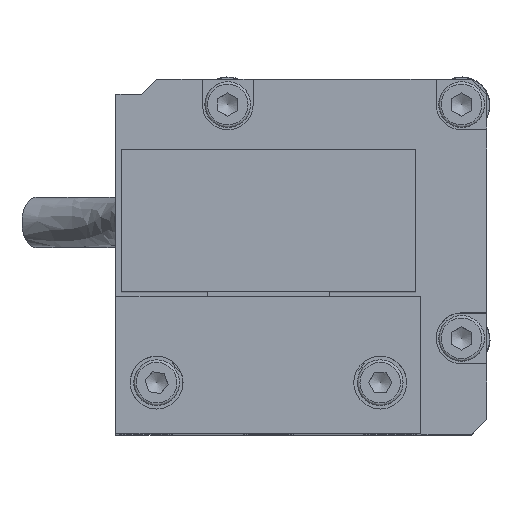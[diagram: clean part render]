
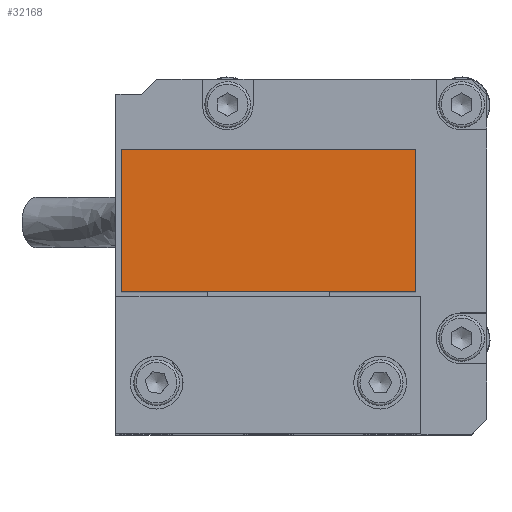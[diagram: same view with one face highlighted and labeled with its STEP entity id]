
A CAD part, top view. The second image highlights one B-rep face of the part: STEP entity #32168.
In plain terms, the highlighted planar face has unit normal (0, 0, 1) as drawn and (-1, 0, 0) by its records, which use the part's own axes.
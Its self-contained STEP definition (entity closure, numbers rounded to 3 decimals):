
#3097=LINE($,#118980,#5539);
#3103=LINE($,#119026,#5545);
#3104=LINE($,#119028,#5546);
#3105=LINE($,#119029,#5547);
#5539=VECTOR($,#41660,14.);
#5545=VECTOR($,#41712,29.);
#5546=VECTOR($,#41713,29.);
#5547=VECTOR($,#41714,14.);
#7576=PLANE($,#34585);
#9915=FACE_OUTER_BOUND($,#11935,.T.);
#11935=EDGE_LOOP($,(#30012,#30013,#30014,#30015));
#16072=VERTEX_POINT($,#118977);
#16073=VERTEX_POINT($,#118979);
#16090=VERTEX_POINT($,#119025);
#16091=VERTEX_POINT($,#119027);
#20754=EDGE_CURVE($,#16073,#16072,#3097,.T.);
#20772=EDGE_CURVE($,#16090,#16073,#3103,.T.);
#20773=EDGE_CURVE($,#16072,#16091,#3104,.T.);
#20774=EDGE_CURVE($,#16091,#16090,#3105,.T.);
#30012=ORIENTED_EDGE($,*,*,#20772,.T.);
#30013=ORIENTED_EDGE($,*,*,#20754,.T.);
#30014=ORIENTED_EDGE($,*,*,#20773,.T.);
#30015=ORIENTED_EDGE($,*,*,#20774,.T.);
#32168=ADVANCED_FACE($,(#9915),#7576,.T.);
#34585=AXIS2_PLACEMENT_3D($,#119024,#41710,#41711);
#41660=DIRECTION($,(0.,-1.,0.));
#41710=DIRECTION('center_axis',(-1.,0.,0.));
#41711=DIRECTION('ref_axis',(0.,0.,-1.));
#41712=DIRECTION($,(0.,0.,-1.));
#41713=DIRECTION($,(0.,0.,1.));
#41714=DIRECTION($,(0.,1.,0.));
#118977=CARTESIAN_POINT('',(-0.111,15.276,0.5));
#118979=CARTESIAN_POINT('',(-0.111,29.276,0.5));
#118980=CARTESIAN_POINT($,(-0.111,29.276,0.5));
#119024=CARTESIAN_POINT('Origin',(-0.111,22.428,15.));
#119025=CARTESIAN_POINT('',(-0.111,29.276,29.5));
#119026=CARTESIAN_POINT($,(-0.111,29.276,29.5));
#119027=CARTESIAN_POINT('',(-0.111,15.276,29.5));
#119028=CARTESIAN_POINT($,(-0.111,15.276,0.5));
#119029=CARTESIAN_POINT($,(-0.111,15.276,29.5));
